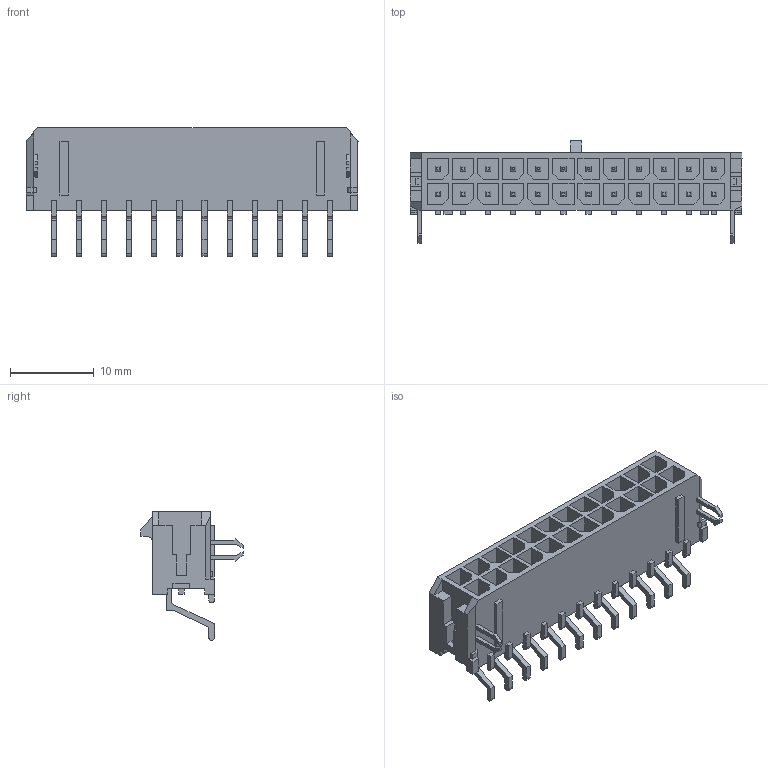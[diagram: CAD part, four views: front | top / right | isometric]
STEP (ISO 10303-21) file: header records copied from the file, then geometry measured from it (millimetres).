
FILE_DESCRIPTION (( 'STEP AP214' ), '1' );
FILE_NAME ('4976-2X12TD1LT.STEP', '2019-01-31T10:05:44', ( 'ADMIN' ), ( '' ), 'SwSTEP 2.0', 'SolidWorks 2011', '' );
FILE_SCHEMA (( 'AUTOMOTIVE_DESIGN' ));
Length unit declared in the file: millimetre
Products named in the file (3): contact; housing; 4976-2X12TD1LT
Assembly tree (2 placements, depth 2):
  4976-2X12TD1LT
    contact
    housing
Bounding box: 39.65 x 12.22 x 15.4 mm (x, y, z)
Volume: 1607.8 mm3; surface area: 3983.7 mm2
Topology: 56 solids, 56 shells, 947 faces, 2272 edges, 1462 vertices
Faces by surface type: plane 895, cylinder 52
Entity records: 37777 total; most frequent: CARTESIAN_POINT 4686, ORIENTED_EDGE 4544, DIRECTION 4280, EDGE_CURVE 2272, LINE 2168, VECTOR 2168, VERTEX_POINT 1462, AXIS2_PLACEMENT_3D 1056
